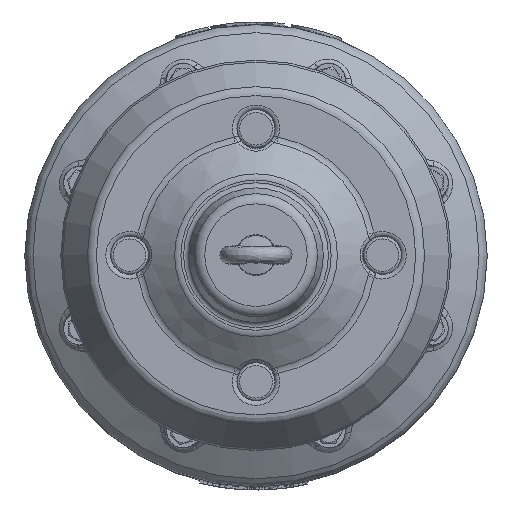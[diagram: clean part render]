
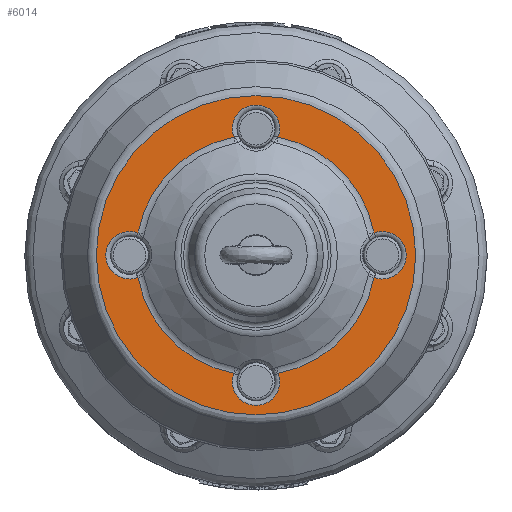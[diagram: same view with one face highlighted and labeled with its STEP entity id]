
A CAD part, top view. The second image highlights one B-rep face of the part: STEP entity #6014.
In plain terms, the highlighted planar face has unit normal (0, 0, 1).
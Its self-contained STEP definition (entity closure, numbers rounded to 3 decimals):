
#6014=ADVANCED_FACE('',(#26793,#26795),#26797,.T.);
#26793=FACE_BOUND('',#26794,.T.);
#26794=EDGE_LOOP('',(#75990));
#26795=FACE_BOUND('',#26796,.T.);
#26796=EDGE_LOOP('',(#75991,#75992,#75993,#75994,#75995,#75996,#75997,#75998));
#26797=PLANE('',#26798);
#26798=AXIS2_PLACEMENT_3D('',#26799,#26800,#26801);
#26799=CARTESIAN_POINT('',(0.,0.,39.24));
#26800=DIRECTION('',(0.,0.,1.));
#26801=DIRECTION('',(-1.,0.,0.));
#75990=ORIENTED_EDGE('',*,*,#81394,.F.);
#75991=ORIENTED_EDGE('',*,*,#81363,.T.);
#75992=ORIENTED_EDGE('',*,*,#81395,.F.);
#75993=ORIENTED_EDGE('',*,*,#81353,.T.);
#75994=ORIENTED_EDGE('',*,*,#81396,.F.);
#75995=ORIENTED_EDGE('',*,*,#81343,.T.);
#75996=ORIENTED_EDGE('',*,*,#81397,.F.);
#75997=ORIENTED_EDGE('',*,*,#81333,.T.);
#75998=ORIENTED_EDGE('',*,*,#81389,.F.);
#81333=EDGE_CURVE('',#87399,#87396,#87400,.T.);
#81343=EDGE_CURVE('',#87415,#87412,#87416,.T.);
#81353=EDGE_CURVE('',#87431,#87428,#87432,.T.);
#81363=EDGE_CURVE('',#87384,#87444,#87447,.T.);
#81389=EDGE_CURVE('',#87384,#87396,#87489,.F.);
#81394=EDGE_CURVE('',#87496,#87496,#87497,.T.);
#81395=EDGE_CURVE('',#87431,#87444,#87498,.F.);
#81396=EDGE_CURVE('',#87415,#87428,#87499,.F.);
#81397=EDGE_CURVE('',#87399,#87412,#87500,.F.);
#87384=VERTEX_POINT('',#123184);
#87396=VERTEX_POINT('',#123352);
#87399=VERTEX_POINT('',#123363);
#87400=CIRCLE('',#123364,88.283);
#87412=VERTEX_POINT('',#123527);
#87415=VERTEX_POINT('',#123538);
#87416=CIRCLE('',#123539,88.283);
#87428=VERTEX_POINT('',#123702);
#87431=VERTEX_POINT('',#123713);
#87432=CIRCLE('',#123714,88.283);
#87444=VERTEX_POINT('',#123877);
#87447=CIRCLE('',#123888,88.283);
#87489=CIRCLE('',#124329,17.472);
#87496=VERTEX_POINT('',#124388);
#87497=CIRCLE('',#124389,117.355);
#87498=CIRCLE('',#124393,17.472);
#87499=CIRCLE('',#124397,17.472);
#87500=CIRCLE('',#124401,17.472);
#123184=CARTESIAN_POINT('',(-86.761,16.32,39.24));
#123352=CARTESIAN_POINT('',(-86.761,-16.32,39.24));
#123363=CARTESIAN_POINT('',(-16.32,-86.761,39.24));
#123364=AXIS2_PLACEMENT_3D('',#123365,#123366,#123367);
#123365=CARTESIAN_POINT('',(0.,0.,39.24));
#123366=DIRECTION('',(0.,0.,-1.));
#123367=DIRECTION('',(-0.185,-0.983,0.));
#123527=CARTESIAN_POINT('',(16.32,-86.761,39.24));
#123538=CARTESIAN_POINT('',(86.761,-16.32,39.24));
#123539=AXIS2_PLACEMENT_3D('',#123540,#123541,#123542);
#123540=CARTESIAN_POINT('',(0.,0.,39.24));
#123541=DIRECTION('',(0.,0.,-1.));
#123542=DIRECTION('',(0.983,-0.185,0.));
#123702=CARTESIAN_POINT('',(86.761,16.32,39.24));
#123713=CARTESIAN_POINT('',(16.32,86.761,39.24));
#123714=AXIS2_PLACEMENT_3D('',#123715,#123716,#123717);
#123715=CARTESIAN_POINT('',(0.,0.,39.24));
#123716=DIRECTION('',(0.,0.,-1.));
#123717=DIRECTION('',(0.185,0.983,0.));
#123877=CARTESIAN_POINT('',(-16.32,86.761,39.24));
#123888=AXIS2_PLACEMENT_3D('',#123889,#123890,#123891);
#123889=CARTESIAN_POINT('',(0.,0.,39.24));
#123890=DIRECTION('',(0.,0.,-1.));
#123891=DIRECTION('',(-0.983,0.185,0.));
#124329=AXIS2_PLACEMENT_3D('',#124330,#124331,#124332);
#124330=CARTESIAN_POINT('',(-93.,0.,39.24));
#124331=DIRECTION('',(0.,0.,-1.));
#124332=DIRECTION('',(0.357,-0.934,0.));
#124388=CARTESIAN_POINT('',(-117.355,0.,39.24));
#124389=AXIS2_PLACEMENT_3D('',#124390,#124391,#124392);
#124390=CARTESIAN_POINT('',(0.,0.,39.24));
#124391=DIRECTION('',(0.,0.,-1.));
#124392=DIRECTION('',(-1.,0.,0.));
#124393=AXIS2_PLACEMENT_3D('',#124394,#124395,#124396);
#124394=CARTESIAN_POINT('',(0.,93.,39.24));
#124395=DIRECTION('',(0.,0.,-1.));
#124396=DIRECTION('',(-0.934,-0.357,0.));
#124397=AXIS2_PLACEMENT_3D('',#124398,#124399,#124400);
#124398=CARTESIAN_POINT('',(93.,0.,39.24));
#124399=DIRECTION('',(0.,0.,-1.));
#124400=DIRECTION('',(-0.357,0.934,0.));
#124401=AXIS2_PLACEMENT_3D('',#124402,#124403,#124404);
#124402=CARTESIAN_POINT('',(0.,-93.,39.24));
#124403=DIRECTION('',(0.,0.,-1.));
#124404=DIRECTION('',(0.934,0.357,0.));
